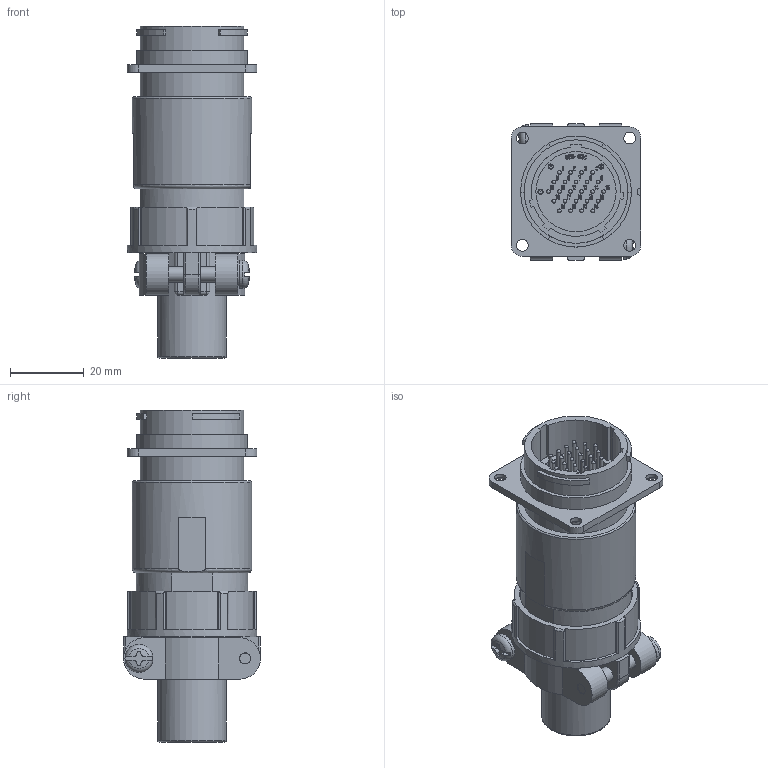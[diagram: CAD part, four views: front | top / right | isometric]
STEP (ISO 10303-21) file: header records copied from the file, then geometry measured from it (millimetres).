
FILE_DESCRIPTION (( 'STEP AP203' ), '1' );
FILE_NAME ('WEBWR2524M-3-D(R1).STEP', '2021-08-10T00:41:47', ( '' ), ( '' ), 'SwSTEP 2.0', 'SolidWorks 2018', '' );
FILE_SCHEMA (( 'CONFIG_CONTROL_DESIGN' ));
Products named in the file (1): WEBWR2524M-3-D(R1)
Bounding box: 35 x 37 x 89.8 mm (x, y, z)
Volume: 40065 mm3; surface area: 23073.7 mm2
Topology: 1 solids, 1 shells, 2037 faces, 5611 edges, 3695 vertices
Faces by surface type: bspline 865, plane 862, cylinder 224, cone 36, sphere 32, torus 18
Full cylindrical faces by diameter (mm): 1 x24, 1.1 x24, 1.2 x4, 1.4 x4, 1.55 x24, 2.8 x2, 3 x2, 3.2 x4, 4.1 x2, 4.3 x4, 7.6 x2, 10 x2, 17.8 x1, 18.64 x1, 19 x1, 21.3 x1, 21.7 x1, 23.2 x1, 23.6 x1, 27.96 x1, 28 x1, 30 x1, 30.5 x1, 32.3 x1, 35 x1
Entity records: 92830 total; most frequent: CARTESIAN_POINT 48282, ORIENTED_EDGE 10562, DIRECTION 6278, EDGE_CURVE 5281, VERTEX_POINT 3573, VECTOR 2974, LINE 2974, EDGE_LOOP 2396
